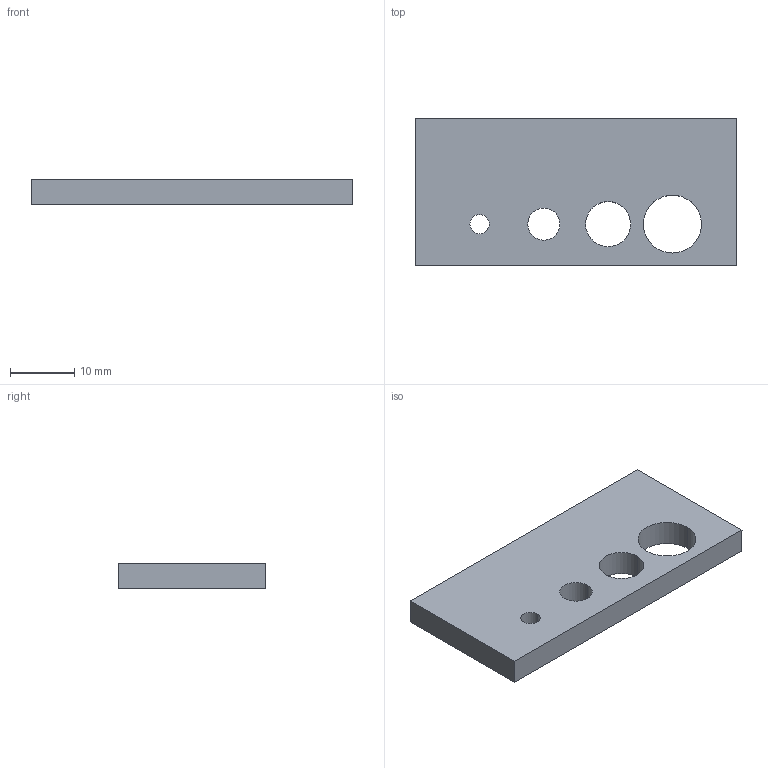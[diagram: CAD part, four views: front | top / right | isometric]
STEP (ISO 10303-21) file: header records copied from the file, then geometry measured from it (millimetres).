
FILE_DESCRIPTION(/* description */ (''),/* implementation_level */ '2;1');
FILE_NAME(/* name */ '3 - 5 - 7 - 9 mm testlehre',/* time_stamp */ '2026-08-26T08:21:24+02:00',/* author */ (''),/* organization */ (''),/* preprocessor_version */ 'ST-DEVELOPER v19.2',/* originating_system */ 'Rhino 8.34',/* authorisation */ '');
FILE_SCHEMA (('CONFIG_CONTROL_DESIGN'));
Length unit declared in the file: millimetre
Products named in the file (1): Document
Bounding box: 50 x 23 x 4 mm (x, y, z)
Volume: 4084.8 mm3; surface area: 2928 mm2
Topology: 1 solids, 1 shells, 14 faces, 36 edges, 24 vertices
Faces by surface type: cylinder 8, plane 6
Entity records: 544 total; most frequent: CARTESIAN_POINT 128, ORIENTED_EDGE 72, DIRECTION 50, EDGE_CURVE 36, AXIS2_PLACEMENT_3D 32, VERTEX_POINT 24, EDGE_LOOP 22, TRIMMED_CURVE 16
